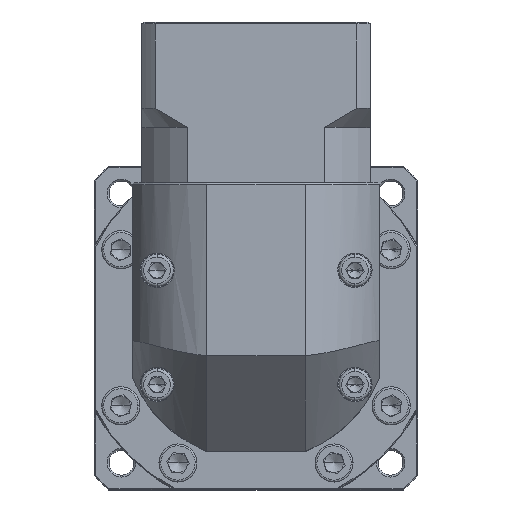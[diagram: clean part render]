
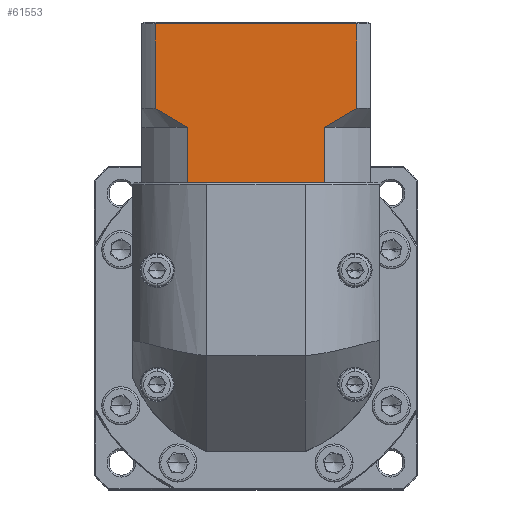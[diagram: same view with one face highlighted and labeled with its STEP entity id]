
A CAD part, top view. The second image highlights one B-rep face of the part: STEP entity #61553.
In plain terms, the highlighted planar face has unit normal (0, 0, 1).
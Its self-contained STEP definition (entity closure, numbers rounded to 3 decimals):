
#1189 = LINE ( 'NONE', #34600, #62590 ) ;
#1383 = CARTESIAN_POINT ( 'NONE',  ( -100.482, 70.274, 47.111 ) ) ;
#1440 = EDGE_CURVE ( 'NONE', #74709, #72884, #1189, .T. ) ;
#2208 = DIRECTION ( 'NONE',  ( 1., 0., 0. ) ) ;
#2281 = CARTESIAN_POINT ( 'NONE',  ( -108.911, 75.274, 47.111 ) ) ;
#4533 = CARTESIAN_POINT ( 'NONE',  ( -108.911, 70.274, 47.111 ) ) ;
#5408 = VECTOR ( 'NONE', #2208, 1000. ) ;
#7864 = EDGE_CURVE ( 'NONE', #67296, #20086, #9398, .T. ) ;
#8698 = EDGE_CURVE ( 'NONE', #128285, #23740, #44881, .T. ) ;
#9398 = LINE ( 'NONE', #41875, #118918 ) ;
#10109 = VERTEX_POINT ( 'NONE', #129320 ) ;
#10786 = ORIENTED_EDGE ( 'NONE', *, *, #56479, .T. ) ;
#12139 = EDGE_CURVE ( 'NONE', #74709, #23740, #115619, .T. ) ;
#15939 = ORIENTED_EDGE ( 'NONE', *, *, #12139, .T. ) ;
#19151 = CARTESIAN_POINT ( 'NONE',  ( -100.482, 55.774, 47.111 ) ) ;
#20086 = VERTEX_POINT ( 'NONE', #127573 ) ;
#23193 = CARTESIAN_POINT ( 'NONE',  ( -112.454, 97.974, 47.111 ) ) ;
#23740 = VERTEX_POINT ( 'NONE', #87834 ) ;
#24307 = DIRECTION ( 'NONE',  ( 1., 0., 0. ) ) ;
#25851 = DIRECTION ( 'NONE',  ( 0., 1., 0. ) ) ;
#26974 = CARTESIAN_POINT ( 'NONE',  ( -55.996, 75.274, 47.111 ) ) ;
#28820 = CARTESIAN_POINT ( 'NONE',  ( -64.426, 70.274, 47.111 ) ) ;
#29594 = EDGE_CURVE ( 'NONE', #67296, #79940, #73584, .T. ) ;
#31290 = CARTESIAN_POINT ( 'NONE',  ( -108.911, 75.274, 47.111 ) ) ;
#31541 = CARTESIAN_POINT ( 'NONE',  ( -55.996, 75.274, 47.111 ) ) ;
#34600 = CARTESIAN_POINT ( 'NONE',  ( -55.996, 70.274, 47.111 ) ) ;
#41875 = CARTESIAN_POINT ( 'NONE',  ( -100.482, 70.274, 47.111 ) ) ;
#44556 = CARTESIAN_POINT ( 'NONE',  ( -64.426, 70.274, 47.111 ) ) ;
#44881 = LINE ( 'NONE', #4533, #109627 ) ;
#44904 = CARTESIAN_POINT ( 'NONE',  ( -101.934, 71.022, 47.111 ) ) ;
#45181 = CARTESIAN_POINT ( 'NONE',  ( -112.454, 55.774, 47.111 ) ) ;
#47402 = ORIENTED_EDGE ( 'NONE', *, *, #62317, .T. ) ;
#51682 = FACE_OUTER_BOUND ( 'NONE', #76282, .T. ) ;
#52199 = CARTESIAN_POINT ( 'NONE',  ( -112.454, 97.474, 47.111 ) ) ;
#54232 = CARTESIAN_POINT ( 'NONE',  ( -106.173, 73.501, 47.111 ) ) ;
#56479 = EDGE_CURVE ( 'NONE', #10109, #89372, #119957, .T. ) ;
#61553 = ADVANCED_FACE ( 'NONE', ( #51682 ), #128532, .F. ) ;
#62158 = ORIENTED_EDGE ( 'NONE', *, *, #73077, .T. ) ;
#62317 = EDGE_CURVE ( 'NONE', #79940, #10109, #107477, .T. ) ;
#62590 = VECTOR ( 'NONE', #109144, 1000. ) ;
#62687 = CARTESIAN_POINT ( 'NONE',  ( -64.426, 70.274, 47.111 ) ) ;
#63127 = CARTESIAN_POINT ( 'NONE',  ( -57.359, 74.373, 47.111 ) ) ;
#63872 = ORIENTED_EDGE ( 'NONE', *, *, #112923, .F. ) ;
#65632 = ORIENTED_EDGE ( 'NONE', *, *, #1440, .F. ) ;
#65769 = CARTESIAN_POINT ( 'NONE',  ( -112.454, 55.774, 47.111 ) ) ;
#67296 = VERTEX_POINT ( 'NONE', #19151 ) ;
#68784 = ORIENTED_EDGE ( 'NONE', *, *, #8698, .F. ) ;
#72884 = VERTEX_POINT ( 'NONE', #26974 ) ;
#73077 = EDGE_CURVE ( 'NONE', #128285, #20086, #129823, .T. ) ;
#73312 = CARTESIAN_POINT ( 'NONE',  ( -61.544, 71.825, 47.111 ) ) ;
#73584 = LINE ( 'NONE', #65769, #5408 ) ;
#74709 = VERTEX_POINT ( 'NONE', #81657 ) ;
#76282 = EDGE_LOOP ( 'NONE', ( #65632, #15939, #68784, #62158, #85923, #123354, #47402, #10786, #63872, #107415 ) ) ;
#79940 = VERTEX_POINT ( 'NONE', #124973 ) ;
#81129 = LINE ( 'NONE', #28820, #102659 ) ;
#81657 = CARTESIAN_POINT ( 'NONE',  ( -55.996, 97.474, 47.111 ) ) ;
#82402 = VECTOR ( 'NONE', #116657, 1000. ) ;
#84778 = CARTESIAN_POINT ( 'NONE',  ( -62.97, 71.024, 47.111 ) ) ;
#85923 = ORIENTED_EDGE ( 'NONE', *, *, #7864, .F. ) ;
#87834 = CARTESIAN_POINT ( 'NONE',  ( -108.911, 97.474, 47.111 ) ) ;
#89372 = VERTEX_POINT ( 'NONE', #94689 ) ;
#91672 = VECTOR ( 'NONE', #24307, 1000. ) ;
#92599 = VECTOR ( 'NONE', #101267, 1000. ) ;
#94689 = CARTESIAN_POINT ( 'NONE',  ( -64.426, 55.774, 47.111 ) ) ;
#95145 = B_SPLINE_CURVE_WITH_KNOTS ( 'NONE', 3,
 ( #62687, #84778, #73312, #105177, #63127, #31541 ),
 .UNSPECIFIED., .F., .F.,
 ( 4, 2, 4 ),
 ( 0.1, 0.104, 0.109 ),
 .UNSPECIFIED. ) ;
#96398 = DIRECTION ( 'NONE',  ( 0., 1., 0. ) ) ;
#101267 = DIRECTION ( 'NONE',  ( 1., 0., 0. ) ) ;
#102659 = VECTOR ( 'NONE', #122948, 1000. ) ;
#105177 = CARTESIAN_POINT ( 'NONE',  ( -58.739, 73.499, 47.111 ) ) ;
#106686 = DIRECTION ( 'NONE',  ( 0., 1., 0. ) ) ;
#107014 = CARTESIAN_POINT ( 'NONE',  ( -107.552, 74.375, 47.111 ) ) ;
#107415 = ORIENTED_EDGE ( 'NONE', *, *, #110233, .T. ) ;
#107477 = LINE ( 'NONE', #122687, #92599 ) ;
#108470 = DIRECTION ( 'NONE',  ( 0., 0., -1. ) ) ;
#109144 = DIRECTION ( 'NONE',  ( 0., -1., 0. ) ) ;
#109627 = VECTOR ( 'NONE', #25851, 1000. ) ;
#110233 = EDGE_CURVE ( 'NONE', #119375, #72884, #95145, .T. ) ;
#112923 = EDGE_CURVE ( 'NONE', #119375, #89372, #81129, .T. ) ;
#115619 = LINE ( 'NONE', #52199, #82402 ) ;
#116657 = DIRECTION ( 'NONE',  ( -1., 0., 0. ) ) ;
#118918 = VECTOR ( 'NONE', #106686, 1000. ) ;
#119375 = VERTEX_POINT ( 'NONE', #44556 ) ;
#119957 = LINE ( 'NONE', #45181, #91672 ) ;
#122687 = CARTESIAN_POINT ( 'NONE',  ( -112.454, 55.774, 47.111 ) ) ;
#122948 = DIRECTION ( 'NONE',  ( 0., -1., 0. ) ) ;
#123354 = ORIENTED_EDGE ( 'NONE', *, *, #29594, .T. ) ;
#124973 = CARTESIAN_POINT ( 'NONE',  ( -99.491, 55.774, 47.111 ) ) ;
#127573 = CARTESIAN_POINT ( 'NONE',  ( -100.482, 70.274, 47.111 ) ) ;
#127973 = CARTESIAN_POINT ( 'NONE',  ( -103.365, 71.826, 47.111 ) ) ;
#128285 = VERTEX_POINT ( 'NONE', #31290 ) ;
#128532 = PLANE ( 'NONE',  #129516 ) ;
#129320 = CARTESIAN_POINT ( 'NONE',  ( -65.417, 55.774, 47.111 ) ) ;
#129516 = AXIS2_PLACEMENT_3D ( 'NONE', #23193, #108470, #96398 ) ;
#129823 = B_SPLINE_CURVE_WITH_KNOTS ( 'NONE', 3,
 ( #2281, #107014, #54232, #127973, #44904, #1383 ),
 .UNSPECIFIED., .F., .F.,
 ( 4, 2, 4 ),
 ( 0.052, 0.057, 0.062 ),
 .UNSPECIFIED. ) ;
